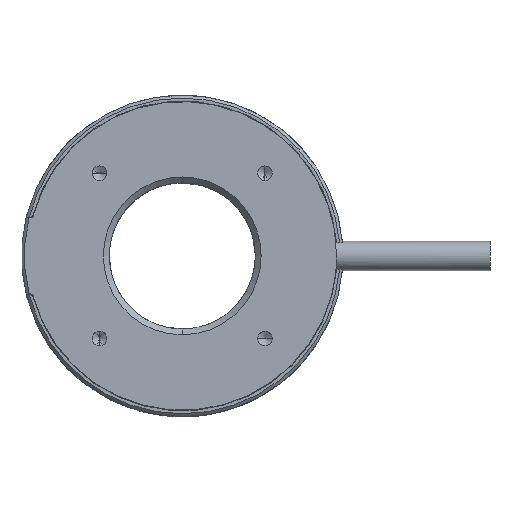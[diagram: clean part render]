
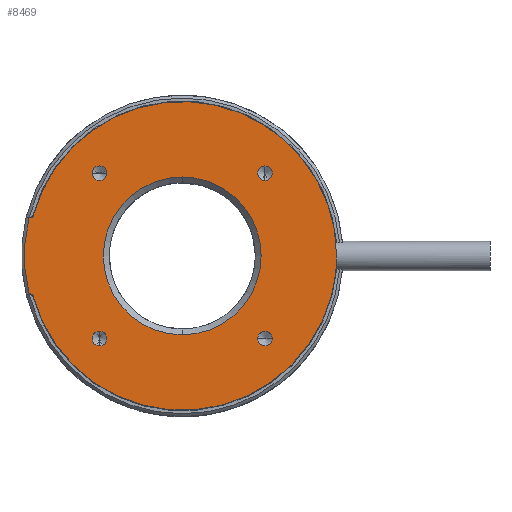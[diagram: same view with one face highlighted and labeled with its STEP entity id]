
A CAD part, top view. The second image highlights one B-rep face of the part: STEP entity #8469.
In plain terms, the highlighted planar face has unit normal (0, 0, 1).
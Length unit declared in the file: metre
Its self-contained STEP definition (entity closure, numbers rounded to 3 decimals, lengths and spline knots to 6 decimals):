
#1480=CARTESIAN_POINT('',(0.,0.,0.002));
#1481=DIRECTION('',(0.,0.,-1.));
#1482=DIRECTION('',(0.,-1.,0.));
#1483=AXIS2_PLACEMENT_3D('',#1480,#1481,#1482);
#1485=CARTESIAN_POINT('',(0.,0.,0.002));
#1486=DIRECTION('',(0.,0.,-1.));
#1487=DIRECTION('',(0.,1.,0.));
#1488=AXIS2_PLACEMENT_3D('',#1485,#1486,#1487);
#1490=CARTESIAN_POINT('',(0.014142,0.014142,0.002));
#1491=DIRECTION('',(0.,0.,-1.));
#1492=DIRECTION('',(0.,1.,0.));
#1493=AXIS2_PLACEMENT_3D('',#1490,#1491,#1492);
#1495=CARTESIAN_POINT('',(0.014142,0.014142,0.002));
#1496=DIRECTION('',(0.,0.,-1.));
#1497=DIRECTION('',(0.,-1.,0.));
#1498=AXIS2_PLACEMENT_3D('',#1495,#1496,#1497);
#1500=CARTESIAN_POINT('',(-0.014142,0.014142,0.002));
#1501=DIRECTION('',(0.,0.,-1.));
#1502=DIRECTION('',(-1.,0.,0.));
#1503=AXIS2_PLACEMENT_3D('',#1500,#1501,#1502);
#1505=CARTESIAN_POINT('',(-0.014142,0.014142,0.002));
#1506=DIRECTION('',(0.,0.,-1.));
#1507=DIRECTION('',(1.,0.,0.));
#1508=AXIS2_PLACEMENT_3D('',#1505,#1506,#1507);
#1510=CARTESIAN_POINT('',(-0.014142,-0.014142,0.002));
#1511=DIRECTION('',(0.,0.,-1.));
#1512=DIRECTION('',(0.,-1.,0.));
#1513=AXIS2_PLACEMENT_3D('',#1510,#1511,#1512);
#1515=CARTESIAN_POINT('',(-0.014142,-0.014142,0.002));
#1516=DIRECTION('',(0.,0.,-1.));
#1517=DIRECTION('',(0.,1.,0.));
#1518=AXIS2_PLACEMENT_3D('',#1515,#1516,#1517);
#1520=CARTESIAN_POINT('',(0.014142,-0.014142,0.002));
#1521=DIRECTION('',(0.,0.,-1.));
#1522=DIRECTION('',(1.,0.,0.));
#1523=AXIS2_PLACEMENT_3D('',#1520,#1521,#1522);
#1525=CARTESIAN_POINT('',(0.014142,-0.014142,0.002));
#1526=DIRECTION('',(0.,0.,-1.));
#1527=DIRECTION('',(-1.,0.,0.));
#1528=AXIS2_PLACEMENT_3D('',#1525,#1526,#1527);
#1530=CARTESIAN_POINT('',(-0.025973,0.007,0.002));
#1531=DIRECTION('',(0.,0.,-1.));
#1532=DIRECTION('',(0.966,-0.26,0.));
#1533=AXIS2_PLACEMENT_3D('',#1530,#1531,#1532);
#1535=CARTESIAN_POINT('',(0.,0.,0.002));
#1536=DIRECTION('',(0.,0.,1.));
#1537=DIRECTION('',(1.,0.,0.));
#1538=AXIS2_PLACEMENT_3D('',#1535,#1536,#1537);
#1540=CARTESIAN_POINT('',(0.,0.,0.002));
#1541=DIRECTION('',(0.,0.,1.));
#1542=DIRECTION('',(0.966,-0.26,0.));
#1543=AXIS2_PLACEMENT_3D('',#1540,#1541,#1542);
#1545=CARTESIAN_POINT('',(0.,0.,0.002));
#1546=DIRECTION('',(0.,0.,1.));
#1547=DIRECTION('',(-0.966,-0.26,0.));
#1548=AXIS2_PLACEMENT_3D('',#1545,#1546,#1547);
#1550=CARTESIAN_POINT('',(-0.025973,-0.007,0.002));
#1551=DIRECTION('',(0.,0.,-1.));
#1552=DIRECTION('',(0.,1.,0.));
#1553=AXIS2_PLACEMENT_3D('',#1550,#1551,#1552);
#1555=CARTESIAN_POINT('',(0.,0.,0.002));
#1556=DIRECTION('',(0.,0.,1.));
#1557=DIRECTION('',(-0.971,0.241,0.));
#1558=AXIS2_PLACEMENT_3D('',#1555,#1556,#1557);
#1672=DIRECTION('',(1.,0.,0.));
#1673=VECTOR('',#1672,0.000233);
#1674=CARTESIAN_POINT('',(-0.026206,0.0065,0.002));
#1675=LINE('',#1674,#1673);
#4723=DIRECTION('',(-1.,0.,0.));
#4724=VECTOR('',#4723,0.000233);
#4725=CARTESIAN_POINT('',(-0.025973,-0.0065,0.002));
#4726=LINE('',#4725,#4724);
#5103=CARTESIAN_POINT('',(-0.02549,-0.00687,0.002));
#5104=CARTESIAN_POINT('',(0.02549,-0.00687,0.002));
#5105=VERTEX_POINT('',#5103);
#5106=VERTEX_POINT('',#5104);
#5107=CARTESIAN_POINT('',(0.0264,0.,0.002));
#5108=VERTEX_POINT('',#5107);
#5109=CARTESIAN_POINT('',(-0.02549,0.00687,0.002));
#5110=VERTEX_POINT('',#5109);
#5111=CARTESIAN_POINT('',(-0.025973,-0.0065,0.002));
#5112=VERTEX_POINT('',#5111);
#5113=CARTESIAN_POINT('',(-0.026206,-0.0065,0.002));
#5114=VERTEX_POINT('',#5113);
#5115=CARTESIAN_POINT('',(-0.026206,0.0065,0.002));
#5116=VERTEX_POINT('',#5115);
#5117=CARTESIAN_POINT('',(-0.025973,0.0065,0.002));
#5118=VERTEX_POINT('',#5117);
#5119=CARTESIAN_POINT('',(0.012892,-0.014142,0.002));
#5120=CARTESIAN_POINT('',(0.015392,-0.014142,0.002));
#5121=VERTEX_POINT('',#5119);
#5122=VERTEX_POINT('',#5120);
#5123=CARTESIAN_POINT('',(-0.014142,-0.012892,0.002));
#5124=CARTESIAN_POINT('',(-0.014142,-0.015392,0.002));
#5125=VERTEX_POINT('',#5123);
#5126=VERTEX_POINT('',#5124);
#5127=CARTESIAN_POINT('',(-0.012892,0.014142,0.002));
#5128=CARTESIAN_POINT('',(-0.015392,0.014142,0.002));
#5129=VERTEX_POINT('',#5127);
#5130=VERTEX_POINT('',#5128);
#5131=CARTESIAN_POINT('',(0.014142,0.012892,0.002));
#5132=CARTESIAN_POINT('',(0.014142,0.015392,0.002));
#5133=VERTEX_POINT('',#5131);
#5134=VERTEX_POINT('',#5132);
#5135=CARTESIAN_POINT('',(0.,0.0135,0.002));
#5136=CARTESIAN_POINT('',(0.,-0.0135,0.002));
#5137=VERTEX_POINT('',#5135);
#5138=VERTEX_POINT('',#5136);
#8418=CARTESIAN_POINT('',(0.,0.,0.002));
#8419=DIRECTION('',(0.,0.,-1.));
#8420=DIRECTION('',(0.,1.,0.));
#8421=AXIS2_PLACEMENT_3D('',#8418,#8419,#8420);
#8422=PLANE('',#8421);
#8424=ORIENTED_EDGE('',*,*,#8423,.F.);
#8426=ORIENTED_EDGE('',*,*,#8425,.F.);
#8428=ORIENTED_EDGE('',*,*,#8427,.F.);
#8430=ORIENTED_EDGE('',*,*,#8429,.F.);
#8432=ORIENTED_EDGE('',*,*,#8431,.F.);
#8434=ORIENTED_EDGE('',*,*,#8433,.T.);
#8436=ORIENTED_EDGE('',*,*,#8435,.F.);
#8438=ORIENTED_EDGE('',*,*,#8437,.T.);
#8439=EDGE_LOOP('',(#8424,#8426,#8428,#8430,#8432,#8434,#8436,#8438));
#8440=FACE_OUTER_BOUND('',#8439,.F.);
#8442=ORIENTED_EDGE('',*,*,#8441,.F.);
#8444=ORIENTED_EDGE('',*,*,#8443,.F.);
#8445=EDGE_LOOP('',(#8442,#8444));
#8446=FACE_BOUND('',#8445,.F.);
#8448=ORIENTED_EDGE('',*,*,#8447,.F.);
#8450=ORIENTED_EDGE('',*,*,#8449,.F.);
#8451=EDGE_LOOP('',(#8448,#8450));
#8452=FACE_BOUND('',#8451,.F.);
#8454=ORIENTED_EDGE('',*,*,#8453,.F.);
#8456=ORIENTED_EDGE('',*,*,#8455,.F.);
#8457=EDGE_LOOP('',(#8454,#8456));
#8458=FACE_BOUND('',#8457,.F.);
#8460=ORIENTED_EDGE('',*,*,#8459,.F.);
#8462=ORIENTED_EDGE('',*,*,#8461,.F.);
#8463=EDGE_LOOP('',(#8460,#8462));
#8464=FACE_BOUND('',#8463,.F.);
#8465=ORIENTED_EDGE('',*,*,#8397,.F.);
#8466=ORIENTED_EDGE('',*,*,#8411,.F.);
#8467=EDGE_LOOP('',(#8465,#8466));
#8468=FACE_BOUND('',#8467,.F.);
#8469=ADVANCED_FACE('',(#8440,#8446,#8452,#8458,#8464,#8468),#8422,.F.);
#1484=CIRCLE('',#1483,0.0135);
#1489=CIRCLE('',#1488,0.0135);
#1494=CIRCLE('',#1493,0.00125);
#1499=CIRCLE('',#1498,0.00125);
#1504=CIRCLE('',#1503,0.00125);
#1509=CIRCLE('',#1508,0.00125);
#1514=CIRCLE('',#1513,0.00125);
#1519=CIRCLE('',#1518,0.00125);
#1524=CIRCLE('',#1523,0.00125);
#1529=CIRCLE('',#1528,0.00125);
#1534=CIRCLE('',#1533,0.0005);
#1539=CIRCLE('',#1538,0.0264);
#1544=CIRCLE('',#1543,0.0264);
#1549=CIRCLE('',#1548,0.0264);
#1554=CIRCLE('',#1553,0.0005);
#1559=CIRCLE('',#1558,0.027);
#8397=EDGE_CURVE('',#5138,#5137,#1484,.T.);
#8411=EDGE_CURVE('',#5137,#5138,#1489,.T.);
#8423=EDGE_CURVE('',#5110,#5118,#1534,.T.);
#8425=EDGE_CURVE('',#5108,#5110,#1539,.T.);
#8427=EDGE_CURVE('',#5106,#5108,#1544,.T.);
#8429=EDGE_CURVE('',#5105,#5106,#1549,.T.);
#8431=EDGE_CURVE('',#5112,#5105,#1554,.T.);
#8433=EDGE_CURVE('',#5112,#5114,#4726,.T.);
#8435=EDGE_CURVE('',#5116,#5114,#1559,.T.);
#8437=EDGE_CURVE('',#5116,#5118,#1675,.T.);
#8441=EDGE_CURVE('',#5134,#5133,#1494,.T.);
#8443=EDGE_CURVE('',#5133,#5134,#1499,.T.);
#8447=EDGE_CURVE('',#5130,#5129,#1504,.T.);
#8449=EDGE_CURVE('',#5129,#5130,#1509,.T.);
#8453=EDGE_CURVE('',#5126,#5125,#1514,.T.);
#8455=EDGE_CURVE('',#5125,#5126,#1519,.T.);
#8459=EDGE_CURVE('',#5122,#5121,#1524,.T.);
#8461=EDGE_CURVE('',#5121,#5122,#1529,.T.);
